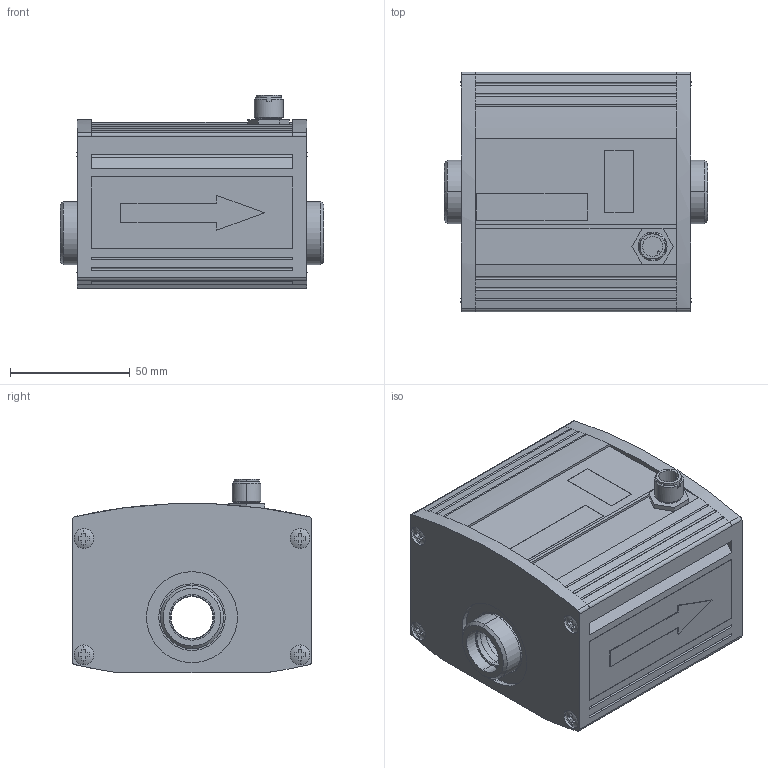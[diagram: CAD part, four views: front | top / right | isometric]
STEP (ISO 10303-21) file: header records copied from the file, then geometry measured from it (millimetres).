
FILE_DESCRIPTION( ( '' ), '1' );
FILE_NAME( '//partserver002.servicenet/client_exchange/iodir/jobs/output/wkb6669379_no0/STEP/su7000_2_03.stp', '2007-03-28T07:58:10', ( '' ), ( '' ), ' ', ' ', ' ' );
FILE_SCHEMA( ( 'CONFIG_CONTROL_DESIGN' ) );
Length unit declared in the file: millimetre
Products named in the file (1): 1
Bounding box: 110 x 100 x 80.57 mm (x, y, z)
Volume: 144949.5 mm3; surface area: 96286.3 mm2
Topology: 1 solids, 1 shells, 416 faces, 1064 edges, 682 vertices
Faces by surface type: plane 269, cylinder 109, cone 22, torus 16
Entity records: 13090 total; most frequent: CARTESIAN_POINT 2915, ORIENTED_EDGE 2128, DIRECTION 2096, EDGE_CURVE 1064, AXIS2_PLACEMENT_3D 731, VERTEX_POINT 682, LINE 634, VECTOR 634
